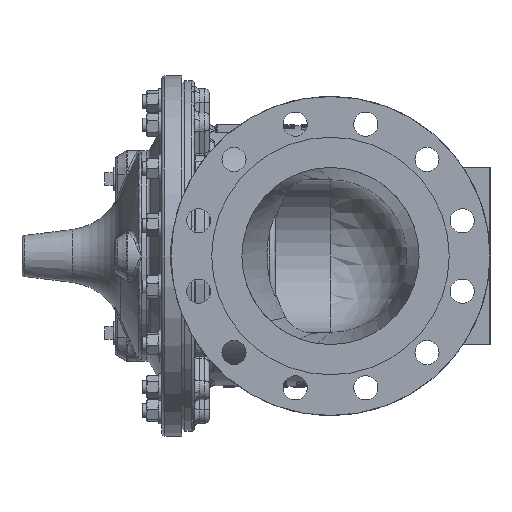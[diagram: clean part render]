
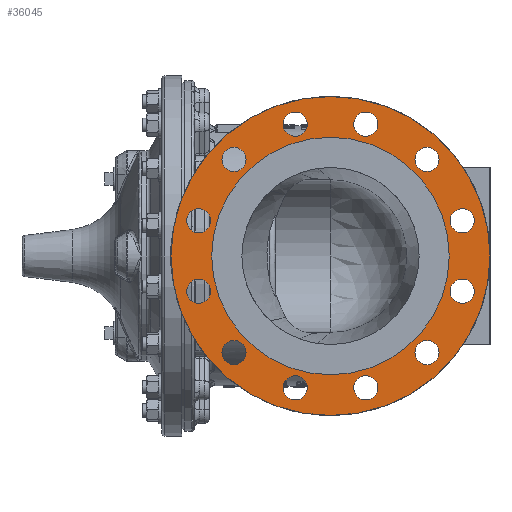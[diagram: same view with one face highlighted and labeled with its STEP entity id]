
A CAD part, left-side view. The second image highlights one B-rep face of the part: STEP entity #36045.
In plain terms, the highlighted planar face has unit normal (-1, 0, 0).
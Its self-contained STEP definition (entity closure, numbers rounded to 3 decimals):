
#3493=FACE_BOUND('',#8511,.T.);
#3494=FACE_BOUND('',#8512,.T.);
#3495=FACE_BOUND('',#8513,.T.);
#3496=FACE_BOUND('',#8514,.T.);
#3497=FACE_BOUND('',#8515,.T.);
#3498=FACE_BOUND('',#8516,.T.);
#3499=FACE_BOUND('',#8517,.T.);
#3500=FACE_BOUND('',#8518,.T.);
#3501=FACE_BOUND('',#8519,.T.);
#3502=FACE_BOUND('',#8520,.T.);
#3503=FACE_BOUND('',#8521,.T.);
#3504=FACE_BOUND('',#8522,.T.);
#3505=FACE_BOUND('',#8523,.T.);
#4097=PLANE('',#39365);
#6161=FACE_OUTER_BOUND('',#8510,.T.);
#8510=EDGE_LOOP('',(#31801));
#8511=EDGE_LOOP('',(#31802));
#8512=EDGE_LOOP('',(#31803));
#8513=EDGE_LOOP('',(#31804));
#8514=EDGE_LOOP('',(#31805));
#8515=EDGE_LOOP('',(#31806));
#8516=EDGE_LOOP('',(#31807));
#8517=EDGE_LOOP('',(#31808));
#8518=EDGE_LOOP('',(#31809));
#8519=EDGE_LOOP('',(#31810));
#8520=EDGE_LOOP('',(#31811));
#8521=EDGE_LOOP('',(#31812));
#8522=EDGE_LOOP('',(#31813));
#8523=EDGE_LOOP('',(#31814));
#12733=CIRCLE('',#38320,225.);
#13154=CIRCLE('',#39296,17.);
#13168=CIRCLE('',#39326,17.);
#13170=CIRCLE('',#39343,17.);
#13171=CIRCLE('',#39345,17.);
#13172=CIRCLE('',#39347,17.);
#13173=CIRCLE('',#39349,17.);
#13174=CIRCLE('',#39351,17.);
#13175=CIRCLE('',#39353,17.);
#13176=CIRCLE('',#39355,17.);
#13177=CIRCLE('',#39357,17.);
#13178=CIRCLE('',#39359,17.);
#13179=CIRCLE('',#39361,17.);
#13180=CIRCLE('',#39363,167.5);
#15387=VERTEX_POINT('',#77299);
#16628=VERTEX_POINT('',#149981);
#16652=VERTEX_POINT('',#150280);
#16656=VERTEX_POINT('',#150544);
#16657=VERTEX_POINT('',#150548);
#16658=VERTEX_POINT('',#150552);
#16659=VERTEX_POINT('',#150556);
#16660=VERTEX_POINT('',#150560);
#16661=VERTEX_POINT('',#150564);
#16662=VERTEX_POINT('',#150568);
#16663=VERTEX_POINT('',#150572);
#16664=VERTEX_POINT('',#150576);
#16665=VERTEX_POINT('',#150580);
#16666=VERTEX_POINT('',#150584);
#19702=EDGE_CURVE('',#15387,#15387,#12733,.T.);
#21796=EDGE_CURVE('',#16628,#16628,#13154,.T.);
#21842=EDGE_CURVE('',#16652,#16652,#13168,.T.);
#21864=EDGE_CURVE('',#16656,#16656,#13170,.T.);
#21866=EDGE_CURVE('',#16657,#16657,#13171,.T.);
#21868=EDGE_CURVE('',#16658,#16658,#13172,.T.);
#21870=EDGE_CURVE('',#16659,#16659,#13173,.T.);
#21872=EDGE_CURVE('',#16660,#16660,#13174,.T.);
#21874=EDGE_CURVE('',#16661,#16661,#13175,.T.);
#21876=EDGE_CURVE('',#16662,#16662,#13176,.T.);
#21878=EDGE_CURVE('',#16663,#16663,#13177,.T.);
#21880=EDGE_CURVE('',#16664,#16664,#13178,.T.);
#21882=EDGE_CURVE('',#16665,#16665,#13179,.T.);
#21884=EDGE_CURVE('',#16666,#16666,#13180,.T.);
#31801=ORIENTED_EDGE('',*,*,#19702,.F.);
#31802=ORIENTED_EDGE('',*,*,#21870,.T.);
#31803=ORIENTED_EDGE('',*,*,#21884,.F.);
#31804=ORIENTED_EDGE('',*,*,#21796,.T.);
#31805=ORIENTED_EDGE('',*,*,#21880,.T.);
#31806=ORIENTED_EDGE('',*,*,#21842,.T.);
#31807=ORIENTED_EDGE('',*,*,#21864,.T.);
#31808=ORIENTED_EDGE('',*,*,#21872,.T.);
#31809=ORIENTED_EDGE('',*,*,#21874,.T.);
#31810=ORIENTED_EDGE('',*,*,#21882,.T.);
#31811=ORIENTED_EDGE('',*,*,#21876,.T.);
#31812=ORIENTED_EDGE('',*,*,#21878,.T.);
#31813=ORIENTED_EDGE('',*,*,#21866,.T.);
#31814=ORIENTED_EDGE('',*,*,#21868,.T.);
#36045=ADVANCED_FACE('',(#6161,#3493,#3494,#3495,#3496,#3497,#3498,#3499,
#3500,#3501,#3502,#3503,#3504,#3505),#4097,.F.);
#38320=AXIS2_PLACEMENT_3D('',#77301,#44240,#44241);
#39296=AXIS2_PLACEMENT_3D('',#149982,#46964,#46965);
#39326=AXIS2_PLACEMENT_3D('',#150281,#47043,#47044);
#39343=AXIS2_PLACEMENT_3D('',#150545,#47094,#47095);
#39345=AXIS2_PLACEMENT_3D('',#150549,#47099,#47100);
#39347=AXIS2_PLACEMENT_3D('',#150553,#47104,#47105);
#39349=AXIS2_PLACEMENT_3D('',#150557,#47109,#47110);
#39351=AXIS2_PLACEMENT_3D('',#150561,#47114,#47115);
#39353=AXIS2_PLACEMENT_3D('',#150565,#47119,#47120);
#39355=AXIS2_PLACEMENT_3D('',#150569,#47124,#47125);
#39357=AXIS2_PLACEMENT_3D('',#150573,#47129,#47130);
#39359=AXIS2_PLACEMENT_3D('',#150577,#47134,#47135);
#39361=AXIS2_PLACEMENT_3D('',#150581,#47139,#47140);
#39363=AXIS2_PLACEMENT_3D('',#150585,#47144,#47145);
#39365=AXIS2_PLACEMENT_3D('',#150589,#47149,#47150);
#44240=DIRECTION('center_axis',(1.,0.,0.));
#44241=DIRECTION('ref_axis',(0.,1.,0.));
#46964=DIRECTION('center_axis',(1.,0.,0.));
#46965=DIRECTION('ref_axis',(0.,0.,1.));
#47043=DIRECTION('center_axis',(1.,0.,0.));
#47044=DIRECTION('ref_axis',(0.,0.,1.));
#47094=DIRECTION('center_axis',(1.,0.,0.));
#47095=DIRECTION('ref_axis',(0.,0.,1.));
#47099=DIRECTION('center_axis',(1.,0.,0.));
#47100=DIRECTION('ref_axis',(0.,0.,1.));
#47104=DIRECTION('center_axis',(1.,0.,0.));
#47105=DIRECTION('ref_axis',(0.,0.,1.));
#47109=DIRECTION('center_axis',(1.,0.,0.));
#47110=DIRECTION('ref_axis',(0.,0.,1.));
#47114=DIRECTION('center_axis',(1.,0.,0.));
#47115=DIRECTION('ref_axis',(0.,0.,1.));
#47119=DIRECTION('center_axis',(1.,0.,0.));
#47120=DIRECTION('ref_axis',(0.,0.,1.));
#47124=DIRECTION('center_axis',(1.,0.,0.));
#47125=DIRECTION('ref_axis',(0.,0.,1.));
#47129=DIRECTION('center_axis',(1.,0.,0.));
#47130=DIRECTION('ref_axis',(0.,0.,1.));
#47134=DIRECTION('center_axis',(1.,0.,0.));
#47135=DIRECTION('ref_axis',(0.,0.,1.));
#47139=DIRECTION('center_axis',(1.,0.,0.));
#47140=DIRECTION('ref_axis',(0.,0.,1.));
#47144=DIRECTION('center_axis',(-1.,0.,0.));
#47145=DIRECTION('ref_axis',(0.,0.,-1.));
#47149=DIRECTION('center_axis',(1.,0.,0.));
#47150=DIRECTION('ref_axis',(0.,0.,-1.));
#77299=CARTESIAN_POINT('',(-362.,-225.,0.));
#77301=CARTESIAN_POINT('Origin',(-362.,0.,0.));
#149981=CARTESIAN_POINT('',(-362.,136.118,119.118));
#149982=CARTESIAN_POINT('Origin',(-362.,136.118,136.118));
#150280=CARTESIAN_POINT('',(-362.,-136.118,-153.118));
#150281=CARTESIAN_POINT('Origin',(-362.,-136.118,-136.118));
#150544=CARTESIAN_POINT('',(-362.,185.941,32.823));
#150545=CARTESIAN_POINT('Origin',(-362.,185.941,49.823));
#150548=CARTESIAN_POINT('',(-362.,49.823,168.941));
#150549=CARTESIAN_POINT('Origin',(-362.,49.823,185.941));
#150552=CARTESIAN_POINT('',(-362.,-49.823,168.941));
#150553=CARTESIAN_POINT('Origin',(-362.,-49.823,185.941));
#150556=CARTESIAN_POINT('',(-362.,-136.118,119.118));
#150557=CARTESIAN_POINT('Origin',(-362.,-136.118,136.118));
#150560=CARTESIAN_POINT('',(-362.,-185.941,32.823));
#150561=CARTESIAN_POINT('Origin',(-362.,-185.941,49.823));
#150564=CARTESIAN_POINT('',(-362.,-185.941,-66.823));
#150565=CARTESIAN_POINT('Origin',(-362.,-185.941,-49.823));
#150568=CARTESIAN_POINT('',(-362.,-49.823,-202.941));
#150569=CARTESIAN_POINT('Origin',(-362.,-49.823,-185.941));
#150572=CARTESIAN_POINT('',(-362.,49.823,-202.941));
#150573=CARTESIAN_POINT('Origin',(-362.,49.823,-185.941));
#150576=CARTESIAN_POINT('',(-362.,136.118,-153.118));
#150577=CARTESIAN_POINT('Origin',(-362.,136.118,-136.118));
#150580=CARTESIAN_POINT('',(-362.,185.941,-66.823));
#150581=CARTESIAN_POINT('Origin',(-362.,185.941,-49.823));
#150584=CARTESIAN_POINT('',(-362.,0.,167.5));
#150585=CARTESIAN_POINT('Origin',(-362.,0.,0.));
#150589=CARTESIAN_POINT('Origin',(-362.,0.,0.));
